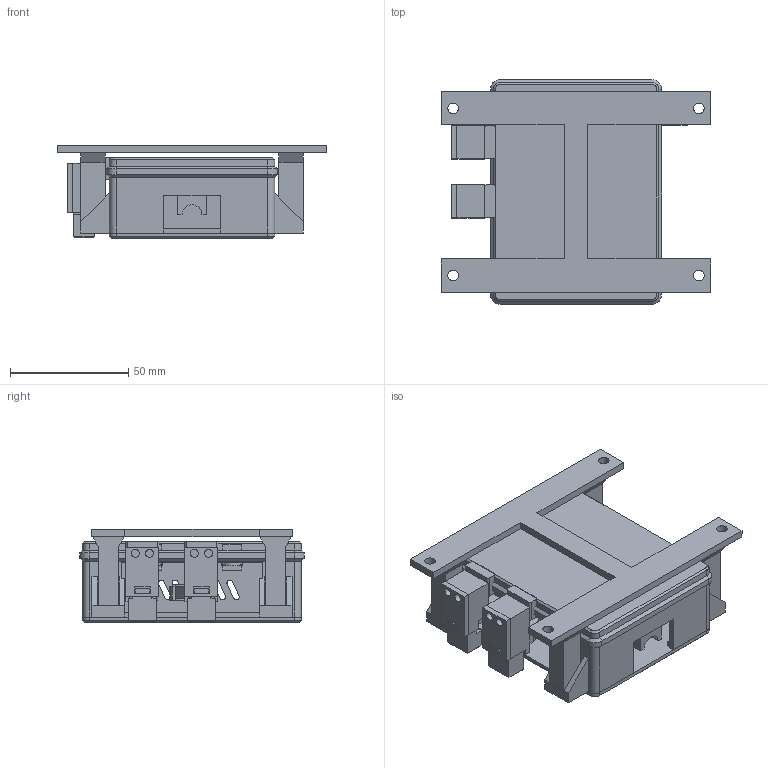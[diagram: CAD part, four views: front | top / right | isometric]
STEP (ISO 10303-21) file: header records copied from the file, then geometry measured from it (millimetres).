
FILE_DESCRIPTION(('SolidCraft model'),'2;1');
FILE_NAME('pcb_width-low-native.step','',(''),(''),'SolidCraft','SolidCraft','');
FILE_SCHEMA(('AP242_MANAGED_MODEL_BASED_3D_ENGINEERING_MIM_LF { 1 0 10303 442 1 1 4 }'));
Length unit declared in the file: millimetre
Products named in the file (1): pcb_width-low-native
Bounding box: 114.1 x 95.2 x 39.6 mm (x, y, z)
Volume: 95668.6 mm3; surface area: 78781.2 mm2
Topology: 26 solids, 26 shells, 690 faces, 1831 edges, 1234 vertices
Faces by surface type: plane 546, cylinder 124, cone 16, bspline 4
Full cylindrical faces by diameter (mm): 3.4 x22, 4 x19, 4.5 x4
Entity records: 17473 total; most frequent: CARTESIAN_POINT 3798, ORIENTED_EDGE 3662, EDGE_CURVE 1831, LINE 1433, VERTEX_POINT 1234, DIRECTION 901, VECTOR 849, EDGE_LOOP 829
